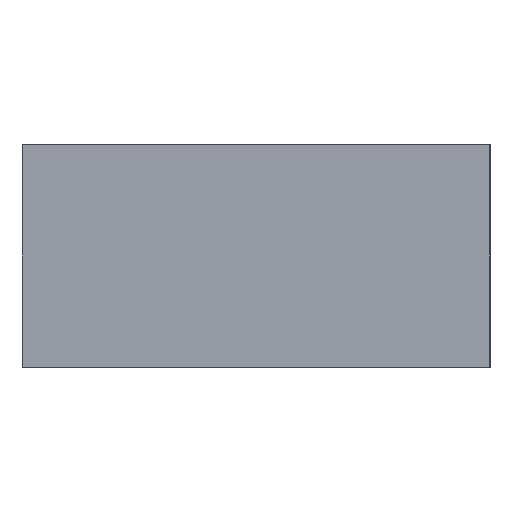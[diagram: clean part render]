
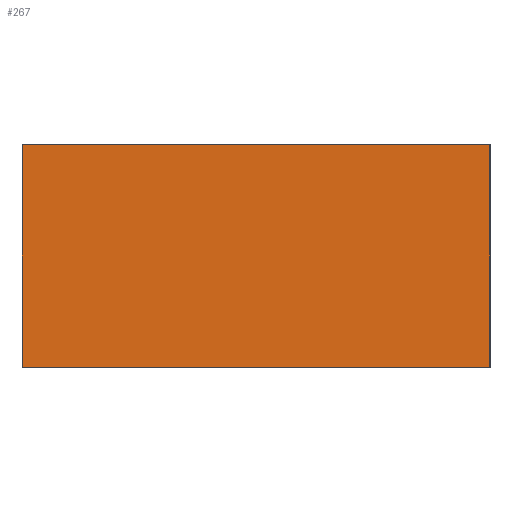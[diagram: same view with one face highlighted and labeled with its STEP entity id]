
A CAD part, left-side view. The second image highlights one B-rep face of the part: STEP entity #267.
In plain terms, the highlighted planar face has unit normal (-1, 0, 0).
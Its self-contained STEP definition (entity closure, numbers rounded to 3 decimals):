
#267=ADVANCED_FACE('',(#698),#700,.T.);
#698=FACE_BOUND('',#699,.T.);
#699=EDGE_LOOP('',(#1025,#1026,#1027,#1028));
#700=PLANE('',#701);
#701=AXIS2_PLACEMENT_3D('',#702,#703,#704);
#702=CARTESIAN_POINT('',(-0.8,0.4,0.355));
#703=DIRECTION('',(-1.,-0.,-0.));
#704=DIRECTION('',(0.,0.,-1.));
#1025=ORIENTED_EDGE('',*,*,#1228,.T.);
#1026=ORIENTED_EDGE('',*,*,#1241,.T.);
#1027=ORIENTED_EDGE('',*,*,#1233,.F.);
#1028=ORIENTED_EDGE('',*,*,#1242,.F.);
#1228=EDGE_CURVE('',#1368,#1366,#1369,.T.);
#1233=EDGE_CURVE('',#1374,#1376,#1377,.T.);
#1241=EDGE_CURVE('',#1366,#1376,#1388,.T.);
#1242=EDGE_CURVE('',#1368,#1374,#1389,.T.);
#1366=VERTEX_POINT('',#1611);
#1368=VERTEX_POINT('',#1615);
#1369=LINE('',#1616,#1617);
#1374=VERTEX_POINT('',#1629);
#1376=VERTEX_POINT('',#1633);
#1377=LINE('',#1634,#1635);
#1388=LINE('',#1661,#1662);
#1389=LINE('',#1664,#1665);
#1611=CARTESIAN_POINT('',(-0.8,0.4,-0.025));
#1615=CARTESIAN_POINT('',(-0.8,0.4,0.355));
#1616=CARTESIAN_POINT('',(-0.8,0.4,0.355));
#1617=VECTOR('',#1618,1.);
#1618=DIRECTION('',(0.,0.,-1.));
#1629=CARTESIAN_POINT('',(-0.8,-0.4,0.355));
#1633=CARTESIAN_POINT('',(-0.8,-0.4,-0.025));
#1634=CARTESIAN_POINT('',(-0.8,-0.4,0.355));
#1635=VECTOR('',#1636,1.);
#1636=DIRECTION('',(0.,0.,-1.));
#1661=CARTESIAN_POINT('',(-0.8,0.4,-0.025));
#1662=VECTOR('',#1663,1.);
#1663=DIRECTION('',(0.,-1.,0.));
#1664=CARTESIAN_POINT('',(-0.8,0.4,0.355));
#1665=VECTOR('',#1666,1.);
#1666=DIRECTION('',(0.,-1.,0.));
